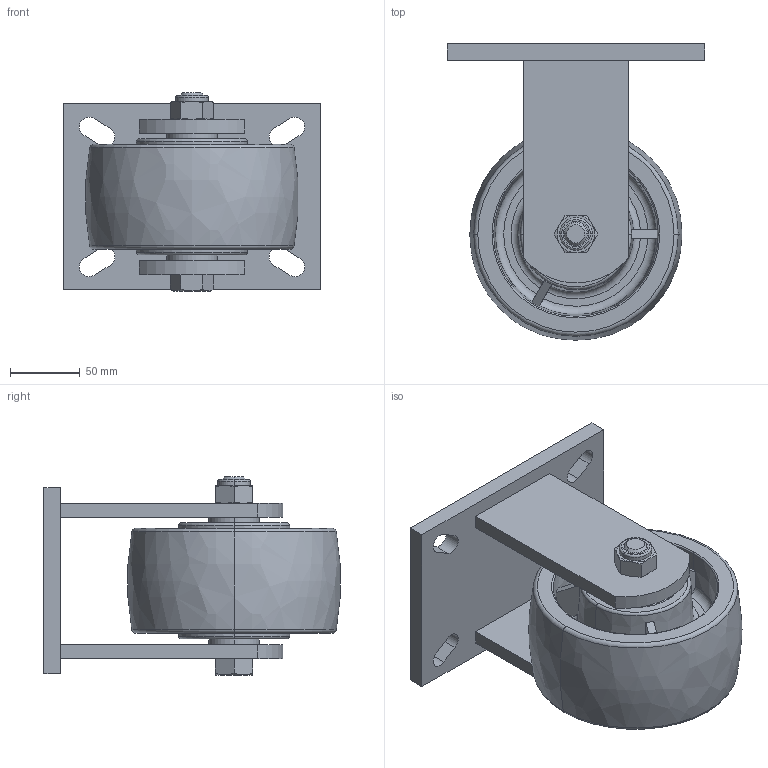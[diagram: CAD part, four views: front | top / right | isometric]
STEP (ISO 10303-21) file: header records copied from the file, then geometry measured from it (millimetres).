
FILE_DESCRIPTION((''),'2;1');
FILE_NAME('93106-936-86A_ASM','2026-04-07T',('Lenovo'),(''),'PRO/ENGINEER BY PARAMETRIC TECHNOLOGY CORPORATION, 2010280','PRO/ENGINEER BY PARAMETRIC TECHNOLOGY CORPORATION, 2010280','');
FILE_SCHEMA(('CONFIG_CONTROL_DESIGN'));
Length unit declared in the file: millimetre
Products named in the file (11): 930C00; 936C10; 936-10_ASM; 936C986A; 6206; 930-54; 930-66; 936-86A_ASM; 930-33; 930-34; 93106-936-86A_ASM
Assembly tree (13 placements, depth 3):
  93106-936-86A_ASM
    936-10_ASM
      930C00
      936C10  x2
    936-86A_ASM
      936C986A
      6206  x2
      930-54
      930-66  x2
    930-33
    930-34
Bounding box: 184 x 211.85 x 142 mm (x, y, z)
Volume: 1461111.7 mm3; surface area: 293703.1 mm2
Topology: 15 solids, 15 shells, 312 faces, 836 edges, 484 vertices
Faces by surface type: plane 86, sphere 72, cylinder 62, torus 52, cone 38, bspline 2
Entity records: 7636 total; most frequent: CARTESIAN_POINT 2045, DIRECTION 1172, ORIENTED_EDGE 1060, EDGE_CURVE 530, AXIS2_PLACEMENT_3D 509, VERTEX_POINT 358, EDGE_LOOP 296, CIRCLE 246
